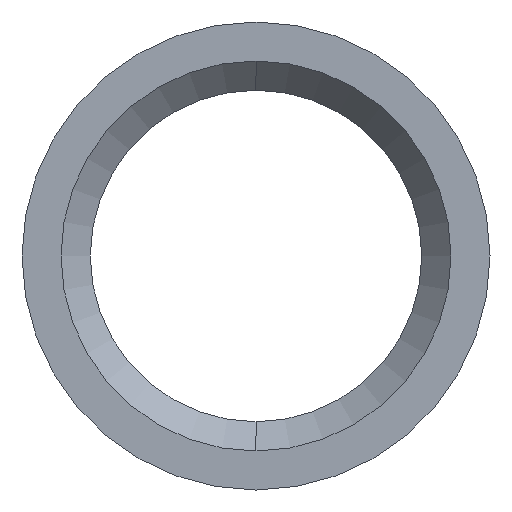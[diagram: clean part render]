
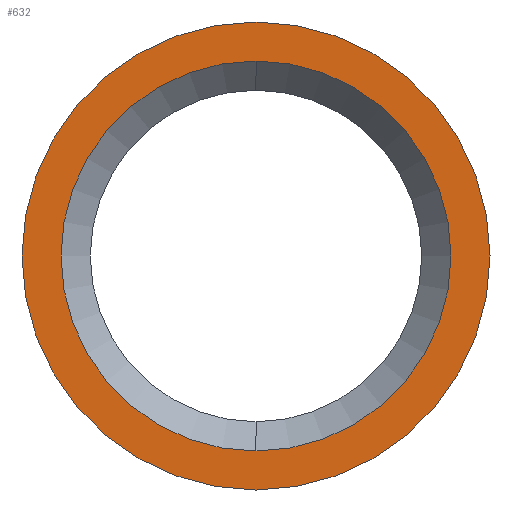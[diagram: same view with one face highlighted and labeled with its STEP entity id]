
A CAD part, left-side view. The second image highlights one B-rep face of the part: STEP entity #632.
In plain terms, the highlighted planar face has unit normal (-1, 0, 0).
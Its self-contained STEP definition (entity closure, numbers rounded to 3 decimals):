
#1 = FACE_BOUND ( 'NONE', #644, .T. ) ;
#31 = DIRECTION ( 'NONE',  ( 0., 0., -1. ) ) ;
#56 = CARTESIAN_POINT ( 'NONE',  ( -9.2, 0., -5. ) ) ;
#67 = EDGE_CURVE ( 'NONE', #740, #615, #782, .T. ) ;
#77 = EDGE_CURVE ( 'NONE', #419, #170, #642, .T. ) ;
#105 = AXIS2_PLACEMENT_3D ( 'NONE', #239, #663, #517 ) ;
#143 = CARTESIAN_POINT ( 'NONE',  ( -9.2, 0., 6. ) ) ;
#148 = EDGE_CURVE ( 'NONE', #615, #740, #412, .T. ) ;
#155 = DIRECTION ( 'NONE',  ( 1., 0., 0. ) ) ;
#165 = CARTESIAN_POINT ( 'NONE',  ( -9.2, 0., 0. ) ) ;
#170 = VERTEX_POINT ( 'NONE', #56 ) ;
#174 = CARTESIAN_POINT ( 'NONE',  ( -9.2, 0., 5. ) ) ;
#209 = FACE_OUTER_BOUND ( 'NONE', #408, .T. ) ;
#213 = ORIENTED_EDGE ( 'NONE', *, *, #148, .F. ) ;
#239 = CARTESIAN_POINT ( 'NONE',  ( -9.2, 0., 0. ) ) ;
#331 = DIRECTION ( 'NONE',  ( 1., 0., 0. ) ) ;
#379 = DIRECTION ( 'NONE',  ( 0., 0., 1. ) ) ;
#383 = AXIS2_PLACEMENT_3D ( 'NONE', #631, #799, #507 ) ;
#408 = EDGE_LOOP ( 'NONE', ( #877, #213 ) ) ;
#412 = CIRCLE ( 'NONE', #827, 6. ) ;
#419 = VERTEX_POINT ( 'NONE', #174 ) ;
#436 = CARTESIAN_POINT ( 'NONE',  ( -9.2, 0., -6. ) ) ;
#442 = CIRCLE ( 'NONE', #555, 5. ) ;
#477 = DIRECTION ( 'NONE',  ( 0., 0., -1. ) ) ;
#507 = DIRECTION ( 'NONE',  ( 0., 0., 1. ) ) ;
#517 = DIRECTION ( 'NONE',  ( 0., 0., 1. ) ) ;
#525 = AXIS2_PLACEMENT_3D ( 'NONE', #165, #657, #31 ) ;
#530 = CARTESIAN_POINT ( 'NONE',  ( -9.2, 0., 0. ) ) ;
#555 = AXIS2_PLACEMENT_3D ( 'NONE', #570, #155, #379 ) ;
#570 = CARTESIAN_POINT ( 'NONE',  ( -9.2, 0., 0. ) ) ;
#615 = VERTEX_POINT ( 'NONE', #143 ) ;
#631 = CARTESIAN_POINT ( 'NONE',  ( -9.2, 6., 0. ) ) ;
#632 = ADVANCED_FACE ( 'NONE', ( #1, #209 ), #708, .T. ) ;
#642 = CIRCLE ( 'NONE', #105, 5. ) ;
#644 = EDGE_LOOP ( 'NONE', ( #891, #784 ) ) ;
#657 = DIRECTION ( 'NONE',  ( 1., 0., 0. ) ) ;
#663 = DIRECTION ( 'NONE',  ( 1., 0., 0. ) ) ;
#708 = PLANE ( 'NONE',  #383 ) ;
#740 = VERTEX_POINT ( 'NONE', #436 ) ;
#782 = CIRCLE ( 'NONE', #525, 6. ) ;
#784 = ORIENTED_EDGE ( 'NONE', *, *, #802, .T. ) ;
#799 = DIRECTION ( 'NONE',  ( -1., 0., 0. ) ) ;
#802 = EDGE_CURVE ( 'NONE', #170, #419, #442, .T. ) ;
#827 = AXIS2_PLACEMENT_3D ( 'NONE', #530, #331, #477 ) ;
#877 = ORIENTED_EDGE ( 'NONE', *, *, #67, .F. ) ;
#891 = ORIENTED_EDGE ( 'NONE', *, *, #77, .T. ) ;
